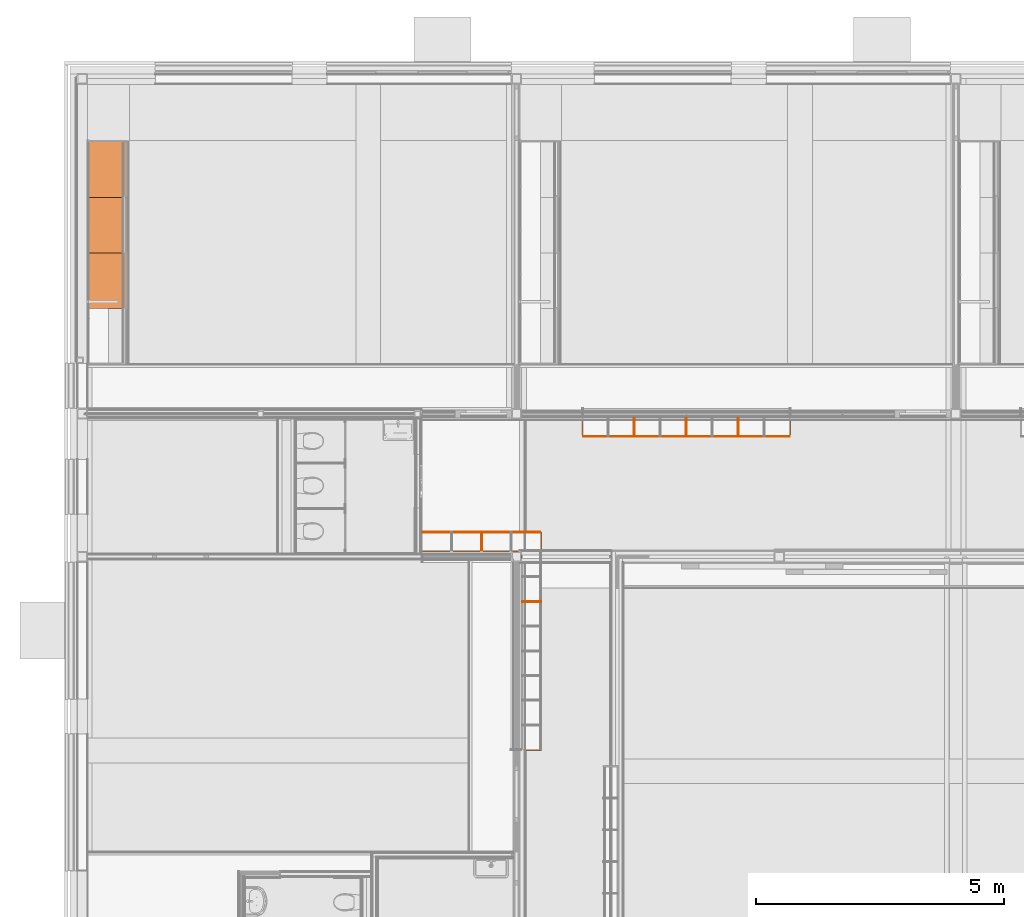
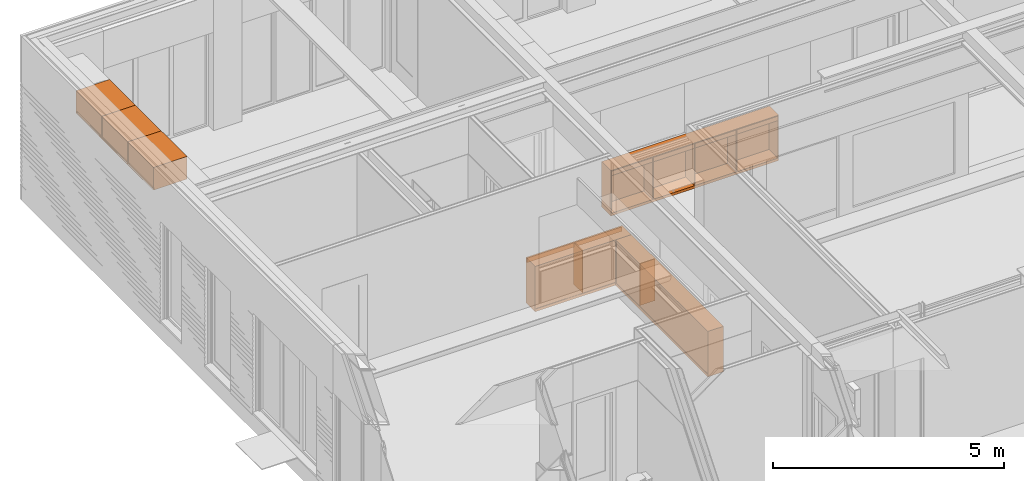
# One storey, part 158 of 165: 17 proxies.
"""IFC2X3 building model written with IfcOpenShell, lengths in millimetres."""

from ifc_helpers import new_model, entity, si_unit, converted_unit, derived_unit, money_unit, direction, frame, origin_with_axes, place, context, subcontext, project, spatial, faceted_brep, material, type_object, element, save


model = new_model("IFC2X3")

# Units and contexts
model_context = context("Model", 3, precision=0.01, world=origin_with_axes(), true_north=direction((0.0, 1.0)))
body_context = subcontext(model_context, "Body", "Model", "MODEL_VIEW")
ifc_project = project(units=[si_unit("LENGTHUNIT", "METRE", prefix="MILLI"), si_unit("AREAUNIT", "SQUARE_METRE"), si_unit("VOLUMEUNIT", "CUBIC_METRE"), converted_unit("PLANEANGLEUNIT", "DEGREE", entity("IfcPlaneAngleMeasure", 0.0174532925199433), si_unit("PLANEANGLEUNIT", "RADIAN"), dimensions=[0, 0, 0, 0, 0, 0, 0]), money_unit("EUR"), converted_unit("TIMEUNIT", "Year", entity("IfcTimeMeasure", 31556926.0), si_unit("TIMEUNIT", "SECOND"), dimensions=[0, 0, 1, 0, 0, 0, 0]), si_unit("MASSUNIT", "GRAM", prefix="KILO"), si_unit("THERMODYNAMICTEMPERATUREUNIT", "DEGREE_CELSIUS"), si_unit("LUMINOUSINTENSITYUNIT", "LUMEN"), si_unit("ENERGYUNIT", "JOULE", prefix="MEGA"), derived_unit("THERMALCONDUCTANCEUNIT", [(si_unit("POWERUNIT", "WATT"), 1), (si_unit("LENGTHUNIT", "METRE"), -1), (si_unit("THERMODYNAMICTEMPERATUREUNIT", "KELVIN"), -1)]), derived_unit("SPECIFICHEATCAPACITYUNIT", [(si_unit("ENERGYUNIT", "JOULE"), 1), (si_unit("MASSUNIT", "GRAM", prefix="KILO"), -1), (si_unit("THERMODYNAMICTEMPERATUREUNIT", "KELVIN"), -1)]), derived_unit("MASSDENSITYUNIT", [(si_unit("MASSUNIT", "GRAM", prefix="KILO"), 1), (si_unit("VOLUMEUNIT", "CUBIC_METRE"), -1)])], contexts=[model_context])

# Site, building, storey
site_placement = place(None, origin_with_axes())
site = spatial("IfcSite", under=ifc_project, at=site_placement, Name="Site", CompositionType="ELEMENT")
building_placement = place(site_placement, origin_with_axes())
building = spatial("IfcBuilding", under=site, at=building_placement, Name="Naam gebouw", CompositionType="ELEMENT")
storey_placement = place(building_placement, origin_with_axes())
storey = spatial("IfcBuildingStorey", under=building, at=storey_placement, Name="Begane grond", CompositionType="ELEMENT", Elevation=0.0)

# Proxies
ifc_material = material(Name="Hout AFW")
building_element_proxy_type_1 = type_object("IfcBuildingElementProxyType", Name="Hout AFW 18", PredefinedType="NOTDEFINED")
proxy_1_placement = place(storey_placement, frame((8135.000015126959, 19950.00381393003, 1062.0), z_axis=(0.0, 0.0, 1.0), x_axis=(-1.0, 0.0, 0.0)))
element("IfcBuildingElementProxy", 1, at=proxy_1_placement, inside=storey, type_object=building_element_proxy_type_1, material=ifc_material, Name="i HOUT_Wand-x", context=body_context, shape_type="Brep", body=[
    faceted_brep([(0.0, 18.00000000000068, 0.0), (1175.000015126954, 18.00000000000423, 0.0), (1175.000015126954, 0.0, 0.0), (0.0, 0.0, 0.0), (0.0, 18.00000000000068, 117.9999999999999), (1175.000015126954, 18.00000000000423, 117.9999999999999), (1175.000015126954, 0.0, 117.9999999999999), (0.0, 0.0, 117.9999999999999)], [[[0, 1, 2, 3]], [[4, 5, 1, 0]], [[2, 1, 5, 6]], [[3, 2, 6, 7]], [[4, 0, 3, 7]], [[7, 6, 5, 4]]]),
])
proxy_2_placement = place(storey_placement, frame((10190.00000000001, 21862.47621406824, 1062.0), z_axis=(0.0, 0.0, 1.0), x_axis=(1.0, 0.0, 0.0)))
element("IfcBuildingElementProxy", 2, at=proxy_2_placement, inside=storey, type_object=building_element_proxy_type_1, material=ifc_material, Name="i HOUT_Wand-x", context=body_context, shape_type="Brep", body=[
    faceted_brep([(0.0, 18.00000000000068, 0.0), (1024.995906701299, 18.00000000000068, 0.0), (1024.995906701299, 0.0, 0.0), (0.0, 0.0, 0.0), (0.0, 18.00000000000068, 117.9999999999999), (1024.995906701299, 18.00000000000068, 117.9999999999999), (1024.995906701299, 0.0, 117.9999999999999), (0.0, 0.0, 117.9999999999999)], [[[0, 1, 2, 3]], [[4, 5, 1, 0]], [[2, 1, 5, 6]], [[3, 2, 6, 7]], [[4, 0, 3, 7]], [[7, 6, 5, 4]]]),
])
proxy_3_placement = place(storey_placement, frame((13324.97953350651, 21862.47621406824, 1062.0), z_axis=(0.0, 0.0, 1.0), x_axis=(1.0, 0.0, 0.0)))
element("IfcBuildingElementProxy", 3, at=proxy_3_placement, inside=storey, type_object=building_element_proxy_type_1, material=ifc_material, Name="i HOUT_Wand-x", context=body_context, shape_type="Brep", body=[
    faceted_brep([(0.0, 18.00000000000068, 0.0), (1025.020466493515, 18.00000000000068, 0.0), (1025.020466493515, 0.0, 0.0), (0.0, 0.0, 0.0), (0.0, 18.00000000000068, 117.9999999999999), (1025.020466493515, 18.00000000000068, 117.9999999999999), (1025.020466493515, 0.0, 117.9999999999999), (0.0, 0.0, 117.9999999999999)], [[[0, 1, 2, 3]], [[4, 5, 1, 0]], [[2, 1, 5, 6]], [[3, 2, 6, 7]], [[4, 0, 3, 7]], [[7, 6, 5, 4]]]),
])
for number, where, z_axis, x_axis, name in (
    (4, (12279.98772010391, 21862.47621406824, 1062.0), (0.0, 0.0, 1.0), (1.0, 0.0, 0.0), "i HOUT_Wand-x"),
    (5, (11234.99590670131, 21862.47621406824, 1062.0), (0.0, 0.0, 1.0), (1.0, 0.0, 0.0), "i HOUT_Wand-x"),
):
    element("IfcBuildingElementProxy", number, at=place(storey_placement, frame(where, z_axis=z_axis, x_axis=x_axis)), inside=storey, type_object=building_element_proxy_type_1, material=ifc_material, Name=name, context=body_context, shape_type="Brep", body=[
        faceted_brep([(0.0, 18.00000000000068, 0.0), (1024.991813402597, 18.00000000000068, 0.0), (1024.991813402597, 0.0, 0.0), (0.0, 0.0, 0.0), (0.0, 18.00000000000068, 117.9999999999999), (1024.991813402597, 18.00000000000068, 117.9999999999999), (1024.991813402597, 0.0, 117.9999999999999), (0.0, 0.0, 117.9999999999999)], [[[0, 1, 2, 3]], [[4, 5, 1, 0]], [[2, 1, 5, 6]], [[3, 2, 6, 7]], [[4, 0, 3, 7]], [[7, 6, 5, 4]]]),
    ])
proxy_4_placement = place(storey_placement, frame((9330.000000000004, 19950.00381393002, 1062.0), z_axis=(0.0, 0.0, 1.0), x_axis=(-1.0, 0.0, 0.0)))
element("IfcBuildingElementProxy", 6, at=proxy_4_placement, inside=storey, type_object=building_element_proxy_type_1, material=ifc_material, Name="i HOUT_Wand-x", context=body_context, shape_type="Brep", body=[
    faceted_brep([(0.0, 18.00000000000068, 0.0), (1174.999984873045, 18.00000000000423, 0.0), (1174.999984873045, 0.0, 0.0), (0.0, 0.0, 0.0), (0.0, 18.00000000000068, 117.9999999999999), (1174.999984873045, 18.00000000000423, 117.9999999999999), (1174.999984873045, 0.0, 117.9999999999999), (0.0, 0.0, 117.9999999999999)], [[[0, 1, 2, 3]], [[4, 5, 1, 0]], [[2, 1, 5, 6]], [[3, 2, 6, 7]], [[4, 0, 3, 7]], [[7, 6, 5, 4]]]),
])
building_element_proxy_type_2 = type_object("IfcBuildingElementProxyType", Name="Onderkast recht 26", PredefinedType="NOTDEFINED")
proxy_5_placement = place(storey_placement, frame((14370.00000000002, 22262.48325312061, 0.0), z_axis=(0.0, 0.0, 1.0), x_axis=(1.0, 0.0, 0.0)))
element("IfcBuildingElementProxy", 7, at=proxy_5_placement, inside=storey, type_object=building_element_proxy_type_2, Name="_Leeg", context=body_context, shape_type="Brep", body=[
    faceted_brep([(-20.0, -400.0030363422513, 50.0), (-20.0, -400.0030363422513, 70.0), (-4180.00000000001, -400.0030363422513, 70.0), (-4180.00000000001, -400.0030363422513, 50.0), (-20.0, 0.0, 50.0), (-20.0, 0.0, 70.0), (-4180.00000000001, 0.0, 70.0), (-4180.00000000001, 0.0, 50.0)], [[[0, 1, 2, 3]], [[4, 5, 1, 0]], [[1, 5, 6, 2]], [[3, 2, 6, 7]], [[0, 3, 7, 4]], [[7, 6, 5, 4]]]),
    faceted_brep([(-20.0, -400.0030363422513, 1180.0), (-20.0, -400.0030363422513, 1200.0), (-4180.00000000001, -400.0030363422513, 1200.0), (-4180.00000000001, -400.0030363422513, 1180.0), (-20.0, 0.0, 1180.0), (-20.0, 0.0, 1200.0), (-4180.00000000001, 0.0, 1200.0), (-4180.00000000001, 0.0, 1180.0)], [[[0, 1, 2, 3]], [[4, 5, 1, 0]], [[1, 5, 6, 2]], [[3, 2, 6, 7]], [[0, 3, 7, 4]], [[7, 6, 5, 4]]]),
    faceted_brep([(0.0, 0.0, 50.0), (0.0, 0.0, 1200.0), (0.0, -400.0030363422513, 1200.0), (0.0, -400.0030363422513, 50.0), (-20.0, 0.0, 50.0), (-20.0, 0.0, 1200.0), (-20.0, -400.0030363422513, 1200.0), (-20.0, -400.0030363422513, 50.0)], [[[0, 1, 2, 3]], [[4, 5, 1, 0]], [[1, 5, 6, 2]], [[3, 2, 6, 7]], [[0, 3, 7, 4]], [[7, 6, 5, 4]]]),
    faceted_brep([(-4200.00000000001, -400.0030363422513, 50.0), (-4200.00000000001, -400.0030363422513, 1200.0), (-4200.00000000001, 0.0, 1200.0), (-4200.00000000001, 0.0, 50.0), (-4180.00000000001, -400.0030363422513, 50.0), (-4180.00000000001, -400.0030363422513, 1200.0), (-4180.00000000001, 0.0, 1200.0), (-4180.00000000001, 0.0, 50.0)], [[[0, 1, 2, 3]], [[4, 5, 1, 0]], [[1, 5, 6, 2]], [[3, 2, 6, 7]], [[0, 3, 7, 4]], [[7, 6, 5, 4]]]),
    faceted_brep([(-4180.00000000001, -10.0, 70.0), (-4180.00000000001, -10.0, 1180.0), (-19.99999999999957, -10.0, 1180.0), (-19.99999999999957, -10.0, 70.0), (-4180.00000000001, -20.0, 70.0), (-4180.00000000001, -20.0, 1180.0), (-19.99999999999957, -20.0, 1180.0), (-19.99999999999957, -20.0, 70.0)], [[[0, 1, 2, 3]], [[4, 5, 1, 0]], [[1, 5, 6, 2]], [[3, 2, 6, 7]], [[0, 3, 7, 4]], [[7, 6, 5, 4]]]),
    faceted_brep([(0.0, -400.0030363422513, 0.0), (0.0, -400.0030363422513, 50.0), (-4200.00000000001, -400.0030363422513, 50.0), (-4200.00000000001, -400.0030363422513, 0.0), (0.0, 0.0, 0.0), (0.0, 0.0, 50.0), (-4200.00000000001, 0.0, 50.0), (-4200.00000000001, 0.0, 0.0)], [[[0, 1, 2, 3]], [[4, 5, 1, 0]], [[1, 5, 6, 2]], [[3, 2, 6, 7]], [[0, 3, 7, 4]], [[7, 6, 5, 4]]]),
])
proxy_6_placement = place(storey_placement, frame((8950.000000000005, 19549.9998112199, 0.0), z_axis=(0.0, 0.0, 1.0), x_axis=(0.0, 1.0, 0.0)))
element("IfcBuildingElementProxy", 8, at=proxy_6_placement, inside=storey, type_object=building_element_proxy_type_2, Name="_Leeg", context=body_context, shape_type="Brep", body=[
    faceted_brep([(-20.0, -400.0000000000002, 50.0), (-20.0, -400.0000000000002, 70.0), (-3980.0, -400.0000000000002, 70.0), (-3980.0, -400.0000000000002, 50.0), (-20.0, 0.0, 50.0), (-20.0, 0.0, 70.0), (-3980.0, 0.0, 70.0), (-3980.0, 0.0, 50.0)], [[[0, 1, 2, 3]], [[4, 5, 1, 0]], [[1, 5, 6, 2]], [[3, 2, 6, 7]], [[0, 3, 7, 4]], [[7, 6, 5, 4]]]),
    faceted_brep([(-20.0, -400.0000000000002, 1180.0), (-20.0, -400.0000000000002, 1200.0), (-3980.0, -400.0000000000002, 1200.0), (-3980.0, -400.0000000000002, 1180.0), (-20.0, 0.0, 1180.0), (-20.0, 0.0, 1200.0), (-3980.0, 0.0, 1200.0), (-3980.0, 0.0, 1180.0)], [[[0, 1, 2, 3]], [[4, 5, 1, 0]], [[1, 5, 6, 2]], [[3, 2, 6, 7]], [[0, 3, 7, 4]], [[7, 6, 5, 4]]]),
    faceted_brep([(0.0, 0.0, 50.0), (0.0, 0.0, 1200.0), (0.0, -400.0000000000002, 1200.0), (0.0, -400.0000000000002, 50.0), (-20.0, 0.0, 50.0), (-20.0, 0.0, 1200.0), (-20.0, -400.0000000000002, 1200.0), (-20.0, -400.0000000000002, 50.0)], [[[0, 1, 2, 3]], [[4, 5, 1, 0]], [[1, 5, 6, 2]], [[3, 2, 6, 7]], [[0, 3, 7, 4]], [[7, 6, 5, 4]]]),
    faceted_brep([(-4000.0, -400.0000000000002, 50.0), (-4000.0, -400.0000000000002, 1200.0), (-4000.0, 0.0, 1200.0), (-4000.0, 0.0, 50.0), (-3980.0, -400.0000000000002, 50.0), (-3980.0, -400.0000000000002, 1200.0), (-3980.0, 0.0, 1200.0), (-3980.0, 0.0, 50.0)], [[[0, 1, 2, 3]], [[4, 5, 1, 0]], [[1, 5, 6, 2]], [[3, 2, 6, 7]], [[0, 3, 7, 4]], [[7, 6, 5, 4]]]),
    faceted_brep([(-3980.0, -10.0, 70.0), (-3980.0, -10.0, 1180.0), (-20.00000000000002, -10.0, 1180.0), (-20.00000000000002, -10.0, 70.0), (-3980.0, -20.0, 70.0), (-3980.0, -20.0, 1180.0), (-20.00000000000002, -20.0, 1180.0), (-20.00000000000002, -20.0, 70.0)], [[[0, 1, 2, 3]], [[4, 5, 1, 0]], [[1, 5, 6, 2]], [[3, 2, 6, 7]], [[0, 3, 7, 4]], [[7, 6, 5, 4]]]),
    faceted_brep([(0.0, -400.0000000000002, 0.0), (0.0, -400.0000000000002, 50.0), (-4000.0, -400.0000000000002, 50.0), (-4000.0, -400.0000000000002, 0.0), (0.0, 0.0, 0.0), (0.0, 0.0, 50.0), (-4000.0, 0.0, 50.0), (-4000.0, 0.0, 0.0)], [[[0, 1, 2, 3]], [[4, 5, 1, 0]], [[1, 5, 6, 2]], [[3, 2, 6, 7]], [[0, 3, 7, 4]], [[7, 6, 5, 4]]]),
])
proxy_7_placement = place(storey_placement, frame((6940.000030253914, 19549.9998112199, 0.0), z_axis=(0.0, 0.0, 1.0), x_axis=(-1.0, 0.0, 0.0)))
element("IfcBuildingElementProxy", 9, at=proxy_7_placement, inside=storey, type_object=building_element_proxy_type_2, Name="_Leeg", context=body_context, shape_type="Brep", body=[
    faceted_brep([(-2389.999969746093, -399.9999999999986, 50.00000000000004), (-20.00000000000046, -399.9999999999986, 50.00000000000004), (-20.00000000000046, -399.9999999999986, 70.00000000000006), (-2389.999969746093, -399.9999999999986, 70.00000000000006), (-19.99999999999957, 0.0, 50.00000000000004), (-2389.999969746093, 0.0, 50.00000000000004), (-19.99999999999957, 0.0, 70.00000000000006), (-2389.999969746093, 0.0, 70.00000000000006)], [[[0, 1, 2, 3]], [[4, 1, 0, 5]], [[1, 4, 6, 2]], [[3, 2, 6, 7]], [[5, 0, 3, 7]], [[4, 5, 7, 6]]]),
    faceted_brep([(-20.00000000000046, -10.00000000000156, 70.00000000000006), (-2389.999969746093, -9.99999999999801, 70.00000000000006), (-2389.999969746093, -9.99999999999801, 1180.0), (-20.00000000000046, -10.00000000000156, 1180.0), (-2389.999969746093, -19.99999999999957, 70.00000000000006), (-20.00000000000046, -19.99999999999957, 70.00000000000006), (-2389.999969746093, -19.99999999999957, 1180.0), (-20.00000000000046, -19.99999999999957, 1180.0)], [[[0, 1, 2, 3]], [[4, 1, 0, 5]], [[1, 4, 6, 2]], [[3, 2, 6, 7]], [[5, 0, 3, 7]], [[4, 5, 7, 6]]]),
    faceted_brep([(-2409.999969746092, -399.9999999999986, 0.0), (0.0, -399.9999999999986, 0.0), (0.0, -399.9999999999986, 50.00000000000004), (-2409.999969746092, -399.9999999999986, 50.00000000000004), (0.0, 0.0, 0.0), (-2409.999969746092, 0.0, 0.0), (0.0, 0.0, 50.00000000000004), (-2409.999969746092, 0.0, 50.00000000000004)], [[[0, 1, 2, 3]], [[4, 1, 0, 5]], [[1, 4, 6, 2]], [[3, 2, 6, 7]], [[5, 0, 3, 7]], [[4, 5, 7, 6]]]),
    faceted_brep([(-2389.999969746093, -399.9999999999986, 1180.0), (-20.00000000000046, -399.9999999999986, 1180.0), (-20.00000000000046, -399.9999999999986, 1200.0), (-2389.999969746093, -399.9999999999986, 1200.0), (-19.99999999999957, 0.0, 1180.0), (-2389.999969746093, 0.0, 1180.0), (-19.99999999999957, 0.0, 1200.0), (-2389.999969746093, 0.0, 1200.0)], [[[0, 1, 2, 3]], [[4, 1, 0, 5]], [[1, 4, 6, 2]], [[3, 2, 6, 7]], [[5, 0, 3, 7]], [[4, 5, 7, 6]]]),
    faceted_brep([(0.0, -399.9999999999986, 50.00000000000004), (0.0, 0.0, 50.00000000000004), (0.0, 0.0, 1200.0), (0.0, -399.9999999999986, 1200.0), (-19.99999999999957, 0.0, 50.00000000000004), (-20.00000000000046, -399.9999999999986, 50.00000000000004), (-19.99999999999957, 0.0, 1200.0), (-20.00000000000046, -399.9999999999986, 1200.0)], [[[0, 1, 2, 3]], [[4, 1, 0, 5]], [[1, 4, 6, 2]], [[3, 2, 6, 7]], [[5, 0, 3, 7]], [[4, 5, 7, 6]]]),
    faceted_brep([(-2409.999969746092, 0.0, 50.00000000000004), (-2409.999969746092, -399.9999999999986, 50.00000000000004), (-2409.999969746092, -399.9999999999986, 1200.0), (-2409.999969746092, 0.0, 1200.0), (-2389.999969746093, -399.9999999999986, 50.00000000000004), (-2389.999969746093, 0.0, 50.00000000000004), (-2389.999969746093, -399.9999999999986, 1200.0), (-2389.999969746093, 0.0, 1200.0)], [[[0, 1, 2, 3]], [[4, 1, 0, 5]], [[1, 4, 6, 2]], [[3, 2, 6, 7]], [[5, 0, 3, 7]], [[4, 5, 7, 6]]]),
])
proxy_8_placement = place(storey_placement, frame((214.0000000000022, 27807.99984707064, 2600.0), z_axis=(0.0, 0.0, 1.0), x_axis=(0.0, 1.0, 0.0)))
element("IfcBuildingElementProxy", 10, at=proxy_8_placement, inside=storey, type_object=building_element_proxy_type_2, Name="_Leeg", context=body_context, shape_type="Brep", body=[
    faceted_brep([(-1102.000141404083, -1.999999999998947, 17.99999999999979), (-18.00000000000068, -1.999999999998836, 17.99999999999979), (-18.00000000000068, 0.0, 17.99999999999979), (-1102.000141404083, 0.0, 17.99999999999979), (-18.00000000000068, -1.999999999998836, 0.0), (-1102.000141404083, -1.999999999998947, 0.0), (-18.00000000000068, 0.0, 0.0), (-1102.000141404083, 0.0, 0.0)], [[[0, 1, 2, 3]], [[4, 1, 0, 5]], [[1, 4, 6, 2]], [[6, 7, 3, 2]], [[5, 0, 3, 7]], [[4, 5, 7, 6]]]),
    faceted_brep([(-1102.000141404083, -17.99999999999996, 69.9999999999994), (-18.00000000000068, -18.00000000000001, 69.9999999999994), (-18.00000000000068, -18.00000000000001, 581.9999999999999), (-1102.000141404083, -17.99999999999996, 581.9999999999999), (-18.00000000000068, -9.000000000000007, 69.9999999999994), (-1102.000141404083, -8.999999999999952, 69.9999999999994), (-18.00000000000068, -9.000000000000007, 581.9999999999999), (-1102.000141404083, -8.999999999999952, 581.9999999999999)], [[[0, 1, 2, 3]], [[4, 1, 0, 5]], [[1, 4, 6, 2]], [[6, 7, 3, 2]], [[5, 0, 3, 7]], [[4, 5, 7, 6]]]),
    faceted_brep([(-1102.000141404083, -827.0000000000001, 581.9999999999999), (-18.00000000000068, -826.9999999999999, 581.9999999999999), (-18.00000000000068, -826.9999999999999, 600.0000000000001), (-1102.000141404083, -827.0000000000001, 600.0000000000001), (-18.00000000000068, 0.0, 581.9999999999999), (-1102.000141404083, 0.0, 581.9999999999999), (-18.00000000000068, 0.0, 600.0000000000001), (-1102.000141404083, 0.0, 600.0000000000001)], [[[0, 1, 2, 3]], [[4, 1, 0, 5]], [[1, 4, 6, 2]], [[3, 2, 6, 7]], [[5, 0, 3, 7]], [[4, 5, 7, 6]]]),
    faceted_brep([(0.0, -1.999999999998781, 69.9999999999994), (0.0, -1.999999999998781, 0.0), (0.0, 0.0, 0.0), (0.0, 0.0, 600.0000000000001), (0.0, -826.9999999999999, 600.0000000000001), (0.0, -826.9999999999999, 0.0), (0.0, -21.9999999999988, 0.0), (0.0, -21.9999999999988, 69.9999999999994), (-18.00000000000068, -1.999999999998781, 69.9999999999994), (-18.00000000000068, -1.999999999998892, 0.0), (-18.00000000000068, 0.0, 0.0), (-18.00000000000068, 0.0, 600.0000000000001), (-18.00000000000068, -826.9999999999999, 600.0000000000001), (-18.00000000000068, -826.9999999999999, 0.0), (-18.00000000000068, -21.99999999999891, 0.0), (-18.00000000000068, -21.9999999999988, 69.9999999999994)], [[[0, 1, 2, 3, 4, 5, 6, 7]], [[1, 0, 8, 9]], [[1, 9, 10, 2]], [[2, 10, 11, 3]], [[4, 3, 11, 12]], [[13, 5, 4, 12]], [[14, 6, 5, 13]], [[7, 6, 14, 15]], [[0, 7, 15, 8]], [[15, 14, 13, 12, 11, 10, 9, 8]]]),
    faceted_brep([(-1102.000141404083, -1.999999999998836, 69.9999999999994), (-1102.000141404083, -1.999999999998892, 0.0), (-1102.000141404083, 0.0, 0.0), (-1102.000141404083, 0.0, 600.0000000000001), (-1102.000141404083, -827.0000000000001, 600.0000000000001), (-1102.000141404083, -827.0000000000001, 0.0), (-1102.000141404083, -21.99999999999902, 0.0), (-1102.000141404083, -21.99999999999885, 69.9999999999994), (-1120.000141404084, -1.999999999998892, 69.9999999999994), (-1120.000141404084, -1.999999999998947, 0.0), (-1120.000141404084, 0.0, 0.0), (-1120.000141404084, 0.0, 600.0000000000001), (-1120.000141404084, -827.0000000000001, 600.0000000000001), (-1120.000141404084, -827.0000000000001, 0.0), (-1120.000141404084, -21.99999999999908, 0.0), (-1120.000141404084, -21.99999999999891, 69.9999999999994)], [[[0, 1, 2, 3, 4, 5, 6, 7]], [[1, 0, 8, 9]], [[1, 9, 10, 2]], [[2, 10, 11, 3]], [[11, 12, 4, 3]], [[13, 5, 4, 12]], [[14, 6, 5, 13]], [[7, 6, 14, 15]], [[0, 7, 15, 8]], [[15, 14, 13, 12, 11, 10, 9, 8]]]),
    faceted_brep([(-18.00000000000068, -21.99999999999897, 0.0), (-18.00000000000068, -21.99999999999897, 17.99999999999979), (-18.00000000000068, -826.9999999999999, 17.99999999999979), (-18.00000000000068, -826.9999999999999, 0.0), (-1102.000141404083, -21.99999999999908, 17.99999999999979), (-1102.000141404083, -21.99999999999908, 0.0), (-1102.000141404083, -827.0000000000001, 17.99999999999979), (-1102.000141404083, -827.0000000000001, 0.0)], [[[0, 1, 2, 3]], [[4, 1, 0, 5]], [[1, 4, 6, 2]], [[7, 3, 2, 6]], [[5, 0, 3, 7]], [[4, 5, 7, 6]]]),
    faceted_brep([(-1.000000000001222, -826.9999999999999, 0.9999999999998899), (-1.000000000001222, -844.9999999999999, 0.9999999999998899), (-1119.000141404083, -844.9999999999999, 0.9999999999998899), (-1119.000141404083, -827.0000000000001, 0.9999999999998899), (-1.000000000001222, -826.9999999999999, 598.9999999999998), (-1.000000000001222, -844.9999999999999, 598.9999999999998), (-1119.000141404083, -844.9999999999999, 598.9999999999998), (-1119.000141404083, -827.0000000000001, 598.9999999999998)], [[[0, 1, 2, 3]], [[4, 5, 1, 0]], [[1, 5, 6, 2]], [[3, 2, 6, 7]], [[0, 3, 7, 4]], [[7, 6, 5, 4]]]),
])
proxy_9_placement = place(storey_placement, frame((214.0000000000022, 26687.99970566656, 2600.0), z_axis=(0.0, 0.0, 1.0), x_axis=(0.0, 1.0, 0.0)))
element("IfcBuildingElementProxy", 11, at=proxy_9_placement, inside=storey, type_object=building_element_proxy_type_2, Name="_Leeg", context=body_context, shape_type="Brep", body=[
    faceted_brep([(-1102.000141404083, -1.999999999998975, 17.99999999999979), (-18.00000000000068, -1.999999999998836, 17.99999999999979), (-18.00000000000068, 0.0, 17.99999999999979), (-1102.000141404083, 0.0, 17.99999999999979), (-18.00000000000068, -1.999999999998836, 0.0), (-1102.000141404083, -1.999999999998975, 0.0), (-18.00000000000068, 0.0, 0.0), (-1102.000141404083, 0.0, 0.0)], [[[0, 1, 2, 3]], [[4, 1, 0, 5]], [[1, 4, 6, 2]], [[6, 7, 3, 2]], [[5, 0, 3, 7]], [[4, 5, 7, 6]]]),
    faceted_brep([(-1102.000141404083, -17.99999999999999, 69.9999999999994), (-18.00000000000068, -18.00000000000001, 69.9999999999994), (-18.00000000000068, -18.00000000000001, 581.9999999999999), (-1102.000141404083, -17.99999999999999, 581.9999999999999), (-18.00000000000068, -9.000000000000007, 69.9999999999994), (-1102.000141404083, -8.99999999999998, 69.9999999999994), (-18.00000000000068, -9.000000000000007, 581.9999999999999), (-1102.000141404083, -8.99999999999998, 581.9999999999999)], [[[0, 1, 2, 3]], [[4, 1, 0, 5]], [[1, 4, 6, 2]], [[6, 7, 3, 2]], [[5, 0, 3, 7]], [[4, 5, 7, 6]]]),
    faceted_brep([(-1102.000141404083, -827.0000000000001, 581.9999999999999), (-18.00000000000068, -827.0000000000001, 581.9999999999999), (-18.00000000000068, -827.0000000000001, 600.0000000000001), (-1102.000141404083, -827.0000000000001, 600.0000000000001), (-18.00000000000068, 0.0, 581.9999999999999), (-1102.000141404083, 0.0, 581.9999999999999), (-18.00000000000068, 0.0, 600.0000000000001), (-1102.000141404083, 0.0, 600.0000000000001)], [[[0, 1, 2, 3]], [[4, 1, 0, 5]], [[1, 4, 6, 2]], [[3, 2, 6, 7]], [[5, 0, 3, 7]], [[4, 5, 7, 6]]]),
    faceted_brep([(0.0, -1.999999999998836, 69.9999999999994), (0.0, -1.999999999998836, 0.0), (0.0, 0.0, 0.0), (0.0, 0.0, 600.0000000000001), (0.0, -827.0000000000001, 600.0000000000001), (0.0, -827.0000000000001, 0.0), (0.0, -21.99999999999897, 0.0), (0.0, -21.99999999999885, 69.9999999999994), (-18.00000000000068, -1.999999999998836, 69.9999999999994), (-18.00000000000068, -1.999999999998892, 0.0), (-18.00000000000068, 0.0, 0.0), (-18.00000000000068, 0.0, 600.0000000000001), (-18.00000000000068, -827.0000000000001, 600.0000000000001), (-18.00000000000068, -827.0000000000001, 0.0), (-18.00000000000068, -21.99999999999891, 0.0), (-18.00000000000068, -21.99999999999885, 69.9999999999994)], [[[0, 1, 2, 3, 4, 5, 6, 7]], [[1, 0, 8, 9]], [[1, 9, 10, 2]], [[2, 10, 11, 3]], [[4, 3, 11, 12]], [[13, 5, 4, 12]], [[14, 6, 5, 13]], [[7, 6, 14, 15]], [[0, 7, 15, 8]], [[15, 14, 13, 12, 11, 10, 9, 8]]]),
    faceted_brep([(-1102.000141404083, -1.999999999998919, 69.9999999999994), (-1102.000141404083, -1.999999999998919, 0.0), (-1102.000141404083, 0.0, 0.0), (-1102.000141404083, 0.0, 600.0000000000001), (-1102.000141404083, -827.0000000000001, 600.0000000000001), (-1102.000141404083, -827.0000000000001, 0.0), (-1102.000141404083, -21.99999999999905, 0.0), (-1102.000141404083, -21.99999999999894, 69.9999999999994), (-1120.000141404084, -1.999999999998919, 69.9999999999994), (-1120.000141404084, -1.999999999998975, 0.0), (-1120.000141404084, 0.0, 0.0), (-1120.000141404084, 0.0, 600.0000000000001), (-1120.000141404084, -827.0000000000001, 600.0000000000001), (-1120.000141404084, -827.0000000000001, 0.0), (-1120.000141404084, -21.9999999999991, 0.0), (-1120.000141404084, -21.99999999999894, 69.9999999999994)], [[[0, 1, 2, 3, 4, 5, 6, 7]], [[1, 0, 8, 9]], [[1, 9, 10, 2]], [[2, 10, 11, 3]], [[11, 12, 4, 3]], [[13, 5, 4, 12]], [[14, 6, 5, 13]], [[7, 6, 14, 15]], [[0, 7, 15, 8]], [[15, 14, 13, 12, 11, 10, 9, 8]]]),
    faceted_brep([(-18.00000000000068, -21.99999999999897, 0.0), (-18.00000000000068, -21.99999999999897, 17.99999999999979), (-18.00000000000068, -827.0000000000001, 17.99999999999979), (-18.00000000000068, -827.0000000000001, 0.0), (-1102.000141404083, -21.9999999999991, 17.99999999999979), (-1102.000141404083, -21.9999999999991, 0.0), (-1102.000141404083, -827.0000000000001, 17.99999999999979), (-1102.000141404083, -827.0000000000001, 0.0)], [[[0, 1, 2, 3]], [[4, 1, 0, 5]], [[1, 4, 6, 2]], [[7, 3, 2, 6]], [[5, 0, 3, 7]], [[4, 5, 7, 6]]]),
    faceted_brep([(-1.000000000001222, -827.0000000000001, 0.9999999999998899), (-1.000000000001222, -845.0000000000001, 0.9999999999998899), (-1119.000141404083, -844.9999999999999, 0.9999999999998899), (-1119.000141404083, -827.0000000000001, 0.9999999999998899), (-1.000000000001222, -827.0000000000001, 598.9999999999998), (-1.000000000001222, -845.0000000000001, 598.9999999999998), (-1119.000141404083, -844.9999999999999, 598.9999999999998), (-1119.000141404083, -827.0000000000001, 598.9999999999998)], [[[0, 1, 2, 3]], [[4, 5, 1, 0]], [[1, 5, 6, 2]], [[3, 2, 6, 7]], [[0, 3, 7, 4]], [[7, 6, 5, 4]]]),
])
proxy_10_placement = place(storey_placement, frame((214.0000000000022, 25567.99956426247, 2600.0), z_axis=(0.0, 0.0, 1.0), x_axis=(0.0, 1.0, 0.0)))
element("IfcBuildingElementProxy", 12, at=proxy_10_placement, inside=storey, type_object=building_element_proxy_type_2, Name="_Leeg", context=body_context, shape_type="Brep", body=[
    faceted_brep([(-1102.000141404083, -1.999999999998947, 17.99999999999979), (-18.00000000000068, -1.999999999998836, 17.99999999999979), (-18.00000000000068, 0.0, 17.99999999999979), (-1102.000141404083, 0.0, 17.99999999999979), (-18.00000000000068, -1.999999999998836, 0.0), (-1102.000141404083, -1.999999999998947, 0.0), (-18.00000000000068, 0.0, 0.0), (-1102.000141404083, 0.0, 0.0)], [[[0, 1, 2, 3]], [[4, 1, 0, 5]], [[1, 4, 6, 2]], [[6, 7, 3, 2]], [[5, 0, 3, 7]], [[4, 5, 7, 6]]]),
    faceted_brep([(-1102.000141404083, -17.99999999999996, 69.9999999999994), (-18.00000000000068, -18.00000000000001, 69.9999999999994), (-18.00000000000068, -18.00000000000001, 581.9999999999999), (-1102.000141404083, -17.99999999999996, 581.9999999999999), (-18.00000000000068, -9.000000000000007, 69.9999999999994), (-1102.000141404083, -8.999999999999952, 69.9999999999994), (-18.00000000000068, -9.000000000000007, 581.9999999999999), (-1102.000141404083, -8.999999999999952, 581.9999999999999)], [[[0, 1, 2, 3]], [[4, 1, 0, 5]], [[1, 4, 6, 2]], [[6, 7, 3, 2]], [[5, 0, 3, 7]], [[4, 5, 7, 6]]]),
    faceted_brep([(-1102.000141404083, -827.0, 581.9999999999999), (-18.00000000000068, -827.0, 581.9999999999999), (-18.00000000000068, -827.0, 600.0000000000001), (-1102.000141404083, -827.0, 600.0000000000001), (-18.00000000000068, 0.0, 581.9999999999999), (-1102.000141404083, 0.0, 581.9999999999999), (-18.00000000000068, 0.0, 600.0000000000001), (-1102.000141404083, 0.0, 600.0000000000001)], [[[0, 1, 2, 3]], [[4, 1, 0, 5]], [[1, 4, 6, 2]], [[3, 2, 6, 7]], [[5, 0, 3, 7]], [[4, 5, 7, 6]]]),
    faceted_brep([(0.0, -1.999999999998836, 69.9999999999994), (0.0, -1.999999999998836, 0.0), (0.0, 0.0, 0.0), (0.0, 0.0, 600.0000000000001), (0.0, -827.0, 600.0000000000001), (0.0, -827.0, 0.0), (0.0, -21.99999999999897, 0.0), (0.0, -21.99999999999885, 69.9999999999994), (-18.00000000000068, -1.999999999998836, 69.9999999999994), (-18.00000000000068, -1.999999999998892, 0.0), (-18.00000000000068, 0.0, 0.0), (-18.00000000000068, 0.0, 600.0000000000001), (-18.00000000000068, -827.0, 600.0000000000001), (-18.00000000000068, -827.0, 0.0), (-18.00000000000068, -21.99999999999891, 0.0), (-18.00000000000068, -21.99999999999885, 69.9999999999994)], [[[0, 1, 2, 3, 4, 5, 6, 7]], [[1, 0, 8, 9]], [[1, 9, 10, 2]], [[2, 10, 11, 3]], [[4, 3, 11, 12]], [[13, 5, 4, 12]], [[14, 6, 5, 13]], [[7, 6, 14, 15]], [[0, 7, 15, 8]], [[15, 14, 13, 12, 11, 10, 9, 8]]]),
    faceted_brep([(-1102.000141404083, -1.999999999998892, 69.9999999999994), (-1102.000141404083, -1.999999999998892, 0.0), (-1102.000141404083, 0.0, 0.0), (-1102.000141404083, 0.0, 600.0000000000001), (-1102.000141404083, -827.0, 600.0000000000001), (-1102.000141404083, -827.0, 0.0), (-1102.000141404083, -21.99999999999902, 0.0), (-1102.000141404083, -21.99999999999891, 69.9999999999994), (-1120.000141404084, -1.999999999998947, 69.9999999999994), (-1120.000141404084, -1.999999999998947, 0.0), (-1120.000141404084, 0.0, 0.0), (-1120.000141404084, 0.0, 600.0000000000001), (-1120.000141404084, -827.0, 600.0000000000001), (-1120.000141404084, -827.0, 0.0), (-1120.000141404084, -21.99999999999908, 0.0), (-1120.000141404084, -21.99999999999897, 69.9999999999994)], [[[0, 1, 2, 3, 4, 5, 6, 7]], [[1, 0, 8, 9]], [[1, 9, 10, 2]], [[2, 10, 11, 3]], [[11, 12, 4, 3]], [[13, 5, 4, 12]], [[14, 6, 5, 13]], [[7, 6, 14, 15]], [[0, 7, 15, 8]], [[15, 14, 13, 12, 11, 10, 9, 8]]]),
    faceted_brep([(-18.00000000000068, -21.99999999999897, 0.0), (-18.00000000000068, -21.99999999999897, 17.99999999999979), (-18.00000000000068, -827.0, 17.99999999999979), (-18.00000000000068, -827.0, 0.0), (-1102.000141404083, -21.99999999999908, 17.99999999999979), (-1102.000141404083, -21.99999999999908, 0.0), (-1102.000141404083, -827.0, 17.99999999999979), (-1102.000141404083, -827.0, 0.0)], [[[0, 1, 2, 3]], [[4, 1, 0, 5]], [[1, 4, 6, 2]], [[7, 3, 2, 6]], [[5, 0, 3, 7]], [[4, 5, 7, 6]]]),
    faceted_brep([(-1.000000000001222, -827.0, 0.9999999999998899), (-1.000000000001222, -845.0, 0.9999999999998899), (-1119.000141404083, -844.9999999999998, 0.9999999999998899), (-1119.000141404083, -827.0, 0.9999999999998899), (-1.000000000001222, -827.0, 598.9999999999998), (-1.000000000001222, -845.0, 598.9999999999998), (-1119.000141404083, -844.9999999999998, 598.9999999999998), (-1119.000141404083, -827.0, 598.9999999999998)], [[[0, 1, 2, 3]], [[4, 5, 1, 0]], [[1, 5, 6, 2]], [[3, 2, 6, 7]], [[0, 3, 7, 4]], [[7, 6, 5, 4]]]),
])
building_element_proxy_type_3 = type_object("IfcBuildingElementProxyType", Name="Hout AFW 20", PredefinedType="NOTDEFINED")
proxy_11_placement = place(storey_placement, frame((8145.000015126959, 19569.96906246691, 70.0), z_axis=(0.0, 0.0, 1.0), x_axis=(0.0, 1.0, 0.0)))
element("IfcBuildingElementProxy", 13, at=proxy_11_placement, inside=storey, type_object=building_element_proxy_type_3, material=ifc_material, Name="i HOUT_Wand-x", context=body_context, shape_type="Brep", body=[
    faceted_brep([(0.0, 9.999999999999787, 0.0), (380.006513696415, 9.999999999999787, 0.0), (380.006513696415, -9.999999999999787, 0.0), (0.0, -9.999999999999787, 0.0), (0.0, 9.999999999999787, 1110.0), (380.006513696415, 9.999999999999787, 1110.0), (380.006513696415, -9.999999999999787, 1110.0), (0.0, -9.999999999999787, 1110.0)], [[[0, 1, 2, 3]], [[4, 5, 1, 0]], [[2, 1, 5, 6]], [[3, 2, 6, 7]], [[4, 0, 3, 7]], [[7, 6, 5, 4]]]),
])
proxy_12_placement = place(storey_placement, frame((8969.864221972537, 18539.99980970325, 70.0), z_axis=(0.0, 0.0, 1.0), x_axis=(1.0, 0.0, 0.0)))
element("IfcBuildingElementProxy", 14, at=proxy_12_placement, inside=storey, type_object=building_element_proxy_type_3, material=ifc_material, Name="i HOUT_Wand-x", context=body_context, shape_type="Brep", body=[
    faceted_brep([(0.0, 10.00000000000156, 0.0), (380.006513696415, 10.00000000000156, 0.0), (380.006513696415, -10.00000000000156, 0.0), (0.0, -10.00000000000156, 0.0), (0.0, 10.00000000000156, 1110.0), (380.006513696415, 10.00000000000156, 1110.0), (380.006513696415, -10.00000000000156, 1110.0), (0.0, -10.00000000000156, 1110.0)], [[[0, 1, 2, 3]], [[4, 5, 1, 0]], [[2, 1, 5, 6]], [[3, 2, 6, 7]], [[4, 0, 3, 7]], [[7, 6, 5, 4]]]),
])
for number, where, z_axis, x_axis, name in (
    (15, (13304.97953350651, 22242.62391659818, 70.0), (0.0, 0.0, 1.0), (0.0, -1.0, 0.0), "i HOUT_Wand-x"),
    (16, (12259.98772010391, 22242.56744106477, 70.0), (0.0, 0.0, 1.0), (0.0, -1.0, 0.0), "i HOUT_Wand-x"),
    (17, (11214.99590670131, 22242.51096553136, 70.0), (0.0, 0.0, 1.0), (0.0, -1.0, 0.0), "i HOUT_Wand-x"),
):
    element("IfcBuildingElementProxy", number, at=place(storey_placement, frame(where, z_axis=z_axis, x_axis=x_axis)), inside=storey, type_object=building_element_proxy_type_3, material=ifc_material, Name=name, context=body_context, shape_type="Brep", body=[
        faceted_brep([(0.0, 19.99999999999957, 0.0), (380.006513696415, 19.99999999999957, 0.0), (380.006513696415, 0.0, 0.0), (0.0, 0.0, 0.0), (0.0, 19.99999999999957, 1110.0), (380.006513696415, 19.99999999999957, 1110.0), (380.006513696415, 0.0, 1110.0), (0.0, 0.0, 1110.0)], [[[0, 1, 2, 3]], [[4, 5, 1, 0]], [[2, 1, 5, 6]], [[3, 2, 6, 7]], [[4, 0, 3, 7]], [[7, 6, 5, 4]]]),
    ])

save(model, "model.ifc")
